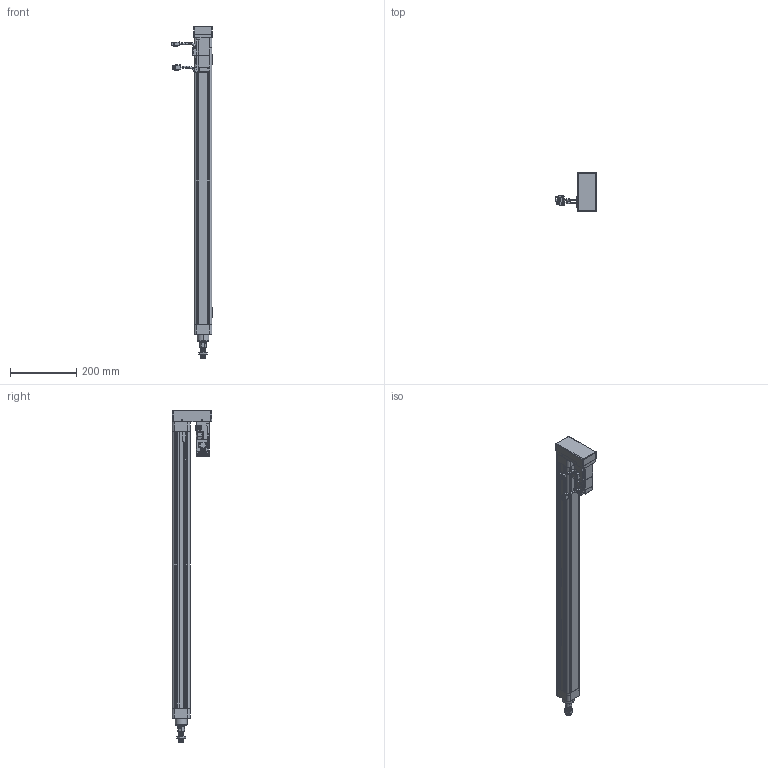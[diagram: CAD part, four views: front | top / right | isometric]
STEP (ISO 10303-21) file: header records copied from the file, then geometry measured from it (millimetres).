
FILE_DESCRIPTION (( 'STEP AP203' ), '1' );
FILE_NAME ('VEC50-10-C-750-MF-ZP10B-MS2.STEP', '2019-01-26T03:32:31', ( 'vobosh 6' ), ( 'Microsoft' ), 'SwSTEP 2.0', 'SolidWorks 2016', '' );
FILE_SCHEMA (( 'CONFIG_CONTROL_DESIGN' ));
Length unit declared in the file: millimetre
Products named in the file (12): 带尾螺母M6x9x45（镀镍）; 柈ч肣薦え耳9x耳8.5x4.4; VEC50-MF-200-011-X1; CS1-M; 鞠褒蹟譫M16x1.5; VEC50-MF-200-004-X1; VEC50-MF-200-001-X1; VEC50-10-C-750-MF-ZP10B-MS2; MHMF012L1V2; VEC50-MF-200-002-X1; VEC50-MF-200-005-X1; VEC50-MF-200-003-X1
Assembly tree (20 placements, depth 2):
  VEC50-10-C-750-MF-ZP10B-MS2
    VEC50-MF-200-001-X1
    VEC50-MF-200-002-X1
    VEC50-MF-200-003-X1
    带尾螺母M6x9x45（镀镍）  x8
    柈ч肣薦え耳9x耳8.5x4.4  x2
    VEC50-MF-200-011-X1
    CS1-M  x2
    鞠褒蹟譫M16x1.5
    VEC50-MF-200-004-X1
    MHMF012L1V2
    VEC50-MF-200-005-X1
Bounding box: 122.5 x 118 x 999 mm (x, y, z)
Volume: 1452891.2 mm3; surface area: 523720.7 mm2
Topology: 27 solids, 27 shells, 1970 faces, 4861 edges, 3048 vertices
Faces by surface type: plane 902, cylinder 703, cone 239, bspline 117, torus 9
Entity records: 59744 total; most frequent: CARTESIAN_POINT 16772, DIRECTION 8631, ORIENTED_EDGE 8630, EDGE_CURVE 4315, AXIS2_PLACEMENT_3D 2988, VERTEX_POINT 2755, VECTOR 2655, LINE 2655
